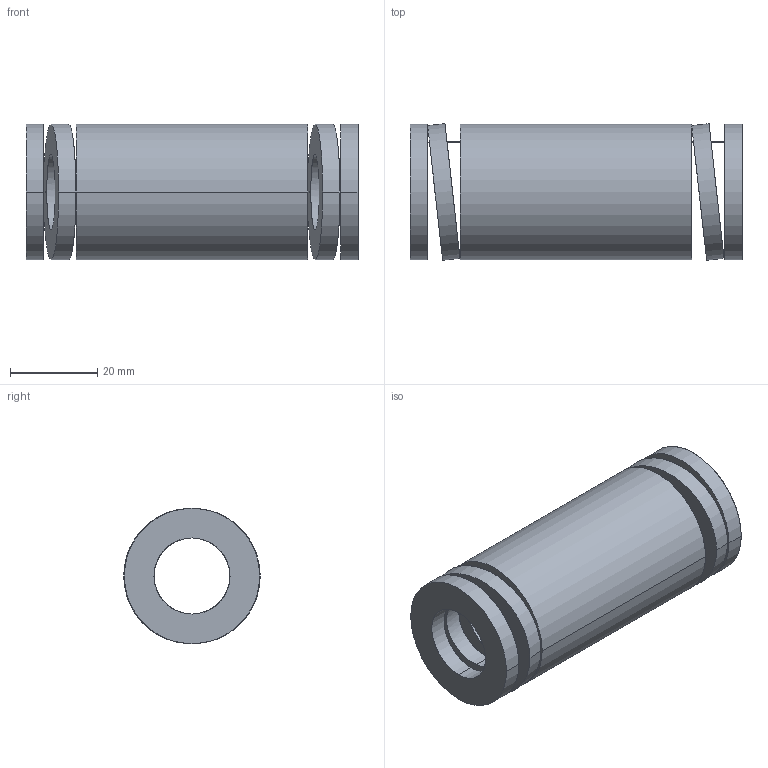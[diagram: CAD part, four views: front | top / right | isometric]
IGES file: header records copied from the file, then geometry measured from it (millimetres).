
Start section: START RECORD GO HERE.
Global section: file name: 392-B32-076.igs; native system: DASSAULT SYSTEMES CATIA V5 R20 - www.3ds.com; preprocessor: CATIA Version 5 Release 20 ; author: Utente; organization: NB04-ASUS; date: 20210813.120853; units: millimetre
Bounding box: 76 x 31.25 x 31 mm (x, y, z)
Surface area: 15645.6 mm2 (no closed solid volume)
Topology: 0 solids, 0 shells, 38 faces, 184 edges, 184 vertices
Faces by surface type: revolution 28, plane 10
